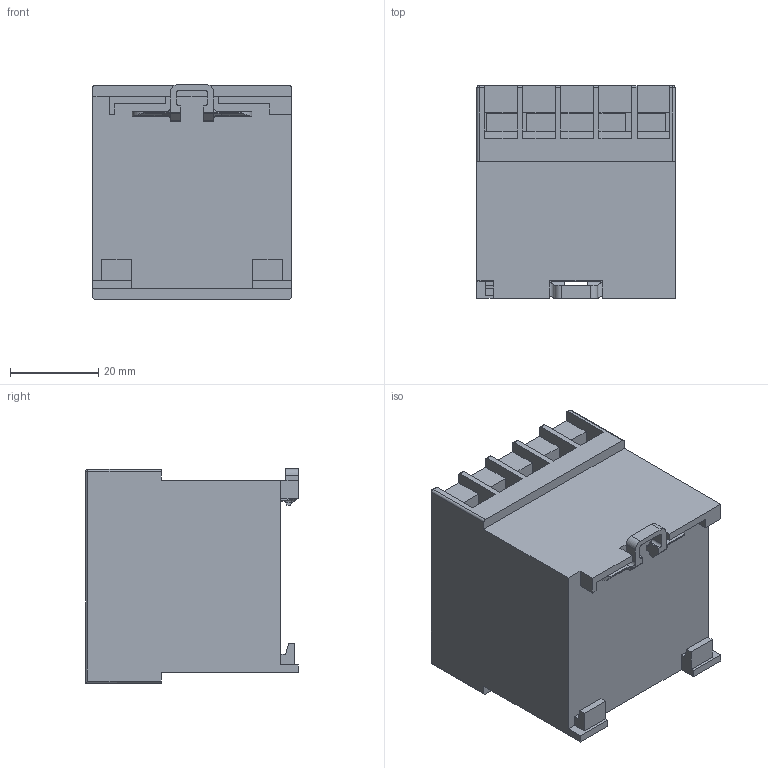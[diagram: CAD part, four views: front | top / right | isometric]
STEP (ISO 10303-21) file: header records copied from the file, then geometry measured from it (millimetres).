
FILE_DESCRIPTION (( 'STEP AP203' ), '1' );
FILE_NAME ('K1-07_09_12 =.STEP', '2014-04-29T09:17:39', ( '' ), ( '' ), 'SwSTEP 2.0', 'SolidWorks 2014', '' );
FILE_SCHEMA (( 'CONFIG_CONTROL_DESIGN' ));
Length unit declared in the file: millimetre
Products named in the file (1): K1-07_09_12 =
Bounding box: 45 x 48.27 x 48.65 mm (x, y, z)
Volume: 84269.4 mm3; surface area: 16539.5 mm2
Topology: 1 solids, 1 shells, 227 faces, 678 edges, 445 vertices
Faces by surface type: plane 165, cylinder 56, bspline 6
Entity records: 7906 total; most frequent: CARTESIAN_POINT 1705, ORIENTED_EDGE 1352, DIRECTION 1191, EDGE_CURVE 676, LINE 537, VECTOR 537, VERTEX_POINT 445, AXIS2_PLACEMENT_3D 327
